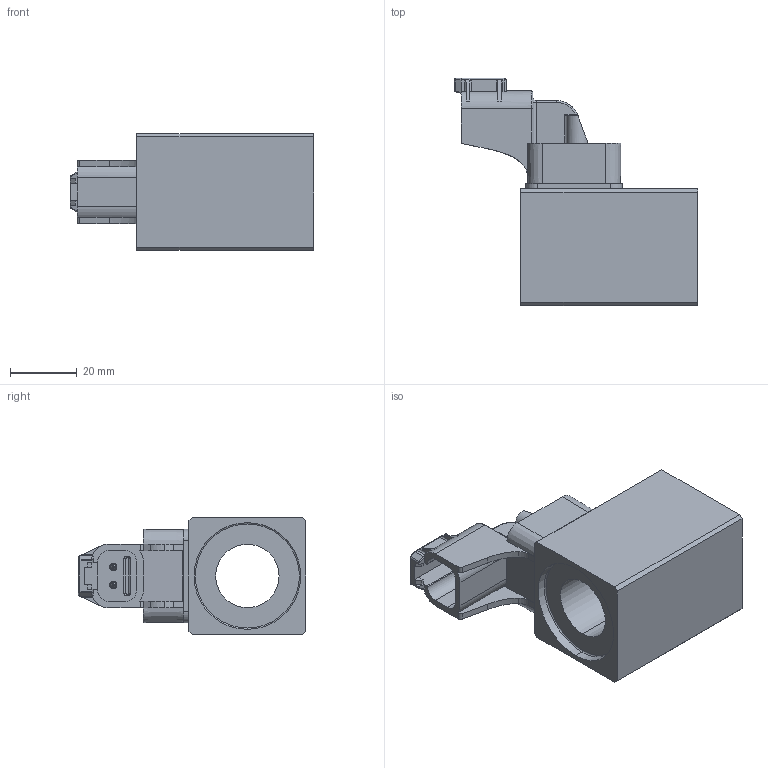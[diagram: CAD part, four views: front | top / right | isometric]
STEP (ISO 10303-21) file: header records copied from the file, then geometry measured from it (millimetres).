
FILE_DESCRIPTION (( 'STEP AP214' ), '1' );
FILE_NAME ('NGS35_19x50.STEP', '2015-07-28T13:43:18', ( '' ), ( '' ), 'SwSTEP 2.0', 'SolidWorks 2014', '' );
FILE_SCHEMA (( 'AUTOMOTIVE_DESIGN' ));
Length unit declared in the file: millimetre
Products named in the file (2): NGS35_19x50
Bounding box: 72.91 x 68.2 x 35 mm (x, y, z)
Volume: 63050.1 mm3; surface area: 20479.9 mm2
Topology: 3 solids, 11 shells, 425 faces, 1070 edges, 675 vertices
Faces by surface type: plane 205, cylinder 139, torus 28, cone 28, bspline 17, sphere 8
Entity records: 17696 total; most frequent: CARTESIAN_POINT 2849, DIRECTION 2169, ORIENTED_EDGE 2132, EDGE_CURVE 1066, AXIS2_PLACEMENT_3D 785, VERTEX_POINT 675, LINE 599, VECTOR 599
